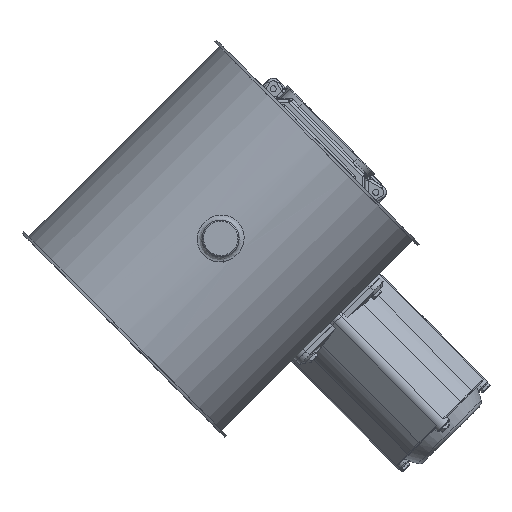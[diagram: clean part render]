
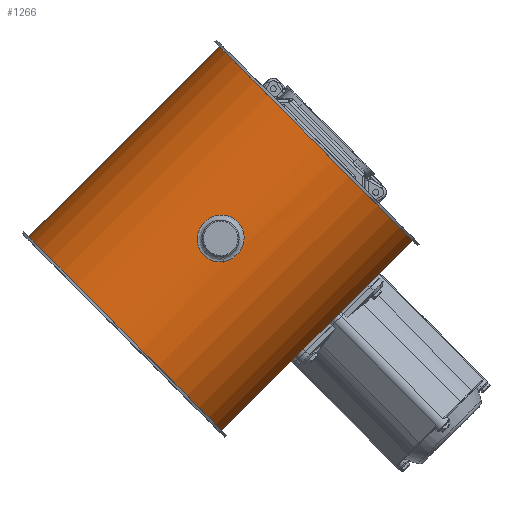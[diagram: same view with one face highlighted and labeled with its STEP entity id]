
A CAD part, top view. The second image highlights one B-rep face of the part: STEP entity #1266.
In plain terms, the highlighted cylindrical face has radius 111.5 mm (diameter 223 mm), a full revolution.
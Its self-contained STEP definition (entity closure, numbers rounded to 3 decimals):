
#833=CARTESIAN_POINT('',(-110.,18.228,103.769));
#834=VERTEX_POINT('',#833);
#835=CARTESIAN_POINT('',(-110.,18.228,120.231));
#836=VERTEX_POINT('',#835);
#837=CARTESIAN_POINT('',(-110.,18.228,103.769));
#838=DIRECTION('',(0.0,0.0,1.0));
#839=VECTOR('',#838,16.462);
#840=LINE('',#837,#839);
#841=EDGE_CURVE('',#834,#836,#840,.T.);
#858=CARTESIAN_POINT('',(-110.,-18.228,120.231));
#859=VERTEX_POINT('',#858);
#860=CARTESIAN_POINT('',(-110.,-18.228,103.769));
#861=VERTEX_POINT('',#860);
#862=CARTESIAN_POINT('',(-110.,-18.228,120.231));
#863=DIRECTION('',(0.0,0.0,-1.0));
#864=VECTOR('',#863,16.462);
#865=LINE('',#862,#864);
#866=EDGE_CURVE('',#859,#861,#865,.T.);
#883=CARTESIAN_POINT('',(-110.,-18.228,103.769));
#884=CARTESIAN_POINT('',(-110.077,-17.764,102.743));
#885=CARTESIAN_POINT('',(-110.165,-17.214,101.758));
#886=CARTESIAN_POINT('',(-110.369,-15.861,99.746));
#887=CARTESIAN_POINT('',(-110.486,-15.028,98.744));
#888=CARTESIAN_POINT('',(-110.713,-13.256,96.972));
#889=CARTESIAN_POINT('',(-110.83,-12.254,96.139));
#890=CARTESIAN_POINT('',(-111.049,-10.073,94.672));
#891=CARTESIAN_POINT('',(-111.152,-8.893,94.036));
#892=CARTESIAN_POINT('',(-111.321,-6.43,93.015));
#893=CARTESIAN_POINT('',(-111.389,-5.145,92.628));
#894=CARTESIAN_POINT('',(-111.478,-2.559,92.121));
#895=CARTESIAN_POINT('',(-111.5,-1.259,92.0));
#896=CARTESIAN_POINT('',(-111.5,1.259,92.));
#897=CARTESIAN_POINT('',(-111.478,2.559,92.121));
#898=CARTESIAN_POINT('',(-111.389,5.145,92.628));
#899=CARTESIAN_POINT('',(-111.321,6.43,93.015));
#900=CARTESIAN_POINT('',(-111.152,8.893,94.036));
#901=CARTESIAN_POINT('',(-111.049,10.073,94.672));
#902=CARTESIAN_POINT('',(-110.83,12.254,96.139));
#903=CARTESIAN_POINT('',(-110.713,13.256,96.972));
#904=CARTESIAN_POINT('',(-110.486,15.028,98.744));
#905=CARTESIAN_POINT('',(-110.369,15.861,99.746));
#906=CARTESIAN_POINT('',(-110.165,17.214,101.758));
#907=CARTESIAN_POINT('',(-110.077,17.764,102.743));
#908=CARTESIAN_POINT('',(-110.,18.228,103.769));
#909=B_SPLINE_CURVE_WITH_KNOTS('',3,(#883,#884,#885,#886,#887,#888,#889,#890,#891,#892,#893,#894,#895,#896,#897,#898,#899,#900,#901,#902,#903,#904,#905,#906,#907,#908),.UNSPECIFIED.,.F.,.U.,(4,2,2,2,2,2,2,2,2,2,2,2,4),(6.855,7.174,7.551,7.929,8.306,8.684,9.062,9.439,9.817,10.194,10.572,10.949,11.268),.UNSPECIFIED.);
#910=EDGE_CURVE('',#861,#834,#909,.T.);
#913=CARTESIAN_POINT('',(-110.,18.228,120.231));
#914=CARTESIAN_POINT('',(-110.077,17.764,121.257));
#915=CARTESIAN_POINT('',(-110.165,17.214,122.242));
#916=CARTESIAN_POINT('',(-110.369,15.861,124.254));
#917=CARTESIAN_POINT('',(-110.486,15.028,125.256));
#918=CARTESIAN_POINT('',(-110.713,13.256,127.028));
#919=CARTESIAN_POINT('',(-110.83,12.254,127.861));
#920=CARTESIAN_POINT('',(-111.049,10.073,129.328));
#921=CARTESIAN_POINT('',(-111.152,8.893,129.964));
#922=CARTESIAN_POINT('',(-111.321,6.43,130.985));
#923=CARTESIAN_POINT('',(-111.389,5.145,131.372));
#924=CARTESIAN_POINT('',(-111.478,2.559,131.879));
#925=CARTESIAN_POINT('',(-111.5,1.259,132.0));
#926=CARTESIAN_POINT('',(-111.5,-1.259,132.));
#927=CARTESIAN_POINT('',(-111.478,-2.559,131.879));
#928=CARTESIAN_POINT('',(-111.389,-5.145,131.372));
#929=CARTESIAN_POINT('',(-111.321,-6.43,130.985));
#930=CARTESIAN_POINT('',(-111.152,-8.893,129.964));
#931=CARTESIAN_POINT('',(-111.049,-10.073,129.328));
#932=CARTESIAN_POINT('',(-110.83,-12.254,127.861));
#933=CARTESIAN_POINT('',(-110.713,-13.256,127.028));
#934=CARTESIAN_POINT('',(-110.486,-15.028,125.256));
#935=CARTESIAN_POINT('',(-110.369,-15.861,124.254));
#936=CARTESIAN_POINT('',(-110.165,-17.214,122.242));
#937=CARTESIAN_POINT('',(-110.077,-17.764,121.257));
#938=CARTESIAN_POINT('',(-110.,-18.228,120.231));
#939=B_SPLINE_CURVE_WITH_KNOTS('',3,(#913,#914,#915,#916,#917,#918,#919,#920,#921,#922,#923,#924,#925,#926,#927,#928,#929,#930,#931,#932,#933,#934,#935,#936,#937,#938),.UNSPECIFIED.,.F.,.U.,(4,2,2,2,2,2,2,2,2,2,2,2,4),(0.814,1.133,1.51,1.888,2.265,2.643,3.021,3.398,3.776,4.153,4.531,4.908,5.227),.UNSPECIFIED.);
#940=EDGE_CURVE('',#836,#859,#939,.T.);
#1182=CARTESIAN_POINT('',(109.913,18.744,112.));
#1183=VERTEX_POINT('',#1182);
#1193=CARTESIAN_POINT('',(109.913,18.744,112.));
#1194=CARTESIAN_POINT('',(109.913,18.744,112.));
#1195=CARTESIAN_POINT('',(109.913,18.744,112.));
#1196=CARTESIAN_POINT('',(109.913,18.744,112.));
#1197=CARTESIAN_POINT('',(109.913,18.743,113.089));
#1198=CARTESIAN_POINT('',(109.944,18.567,115.279));
#1199=CARTESIAN_POINT('',(110.06,17.866,118.102));
#1200=CARTESIAN_POINT('',(110.334,16.135,122.477));
#1201=CARTESIAN_POINT('',(110.684,13.674,125.698));
#1202=CARTESIAN_POINT('',(111.14,9.205,129.208));
#1203=CARTESIAN_POINT('',(111.474,4.642,131.347));
#1204=CARTESIAN_POINT('',(111.526,-0.691,131.664));
#1205=CARTESIAN_POINT('',(111.371,-6.243,130.693));
#1206=CARTESIAN_POINT('',(110.917,-12.07,127.774));
#1207=CARTESIAN_POINT('',(110.054,-18.053,120.006));
#1208=CARTESIAN_POINT('',(109.829,-19.21,112.209));
#1209=CARTESIAN_POINT('',(109.999,-18.24,107.43));
#1210=CARTESIAN_POINT('',(110.083,-17.721,105.548));
#1211=CARTESIAN_POINT('',(110.26,-16.618,102.617));
#1212=CARTESIAN_POINT('',(110.551,-14.607,99.55));
#1213=CARTESIAN_POINT('',(110.866,-11.933,96.867));
#1214=CARTESIAN_POINT('',(111.133,-9.245,94.878));
#1215=CARTESIAN_POINT('',(111.325,-6.454,93.609));
#1216=CARTESIAN_POINT('',(111.525,-1.929,92.339));
#1217=CARTESIAN_POINT('',(111.524,2.148,92.337));
#1218=CARTESIAN_POINT('',(111.269,7.561,93.964));
#1219=CARTESIAN_POINT('',(110.848,12.528,96.815));
#1220=CARTESIAN_POINT('',(110.273,16.564,102.077));
#1221=CARTESIAN_POINT('',(109.969,18.423,107.606));
#1222=CARTESIAN_POINT('',(109.913,18.745,110.548));
#1223=CARTESIAN_POINT('',(109.913,18.744,112.));
#1224=B_SPLINE_CURVE_WITH_KNOTS('',3,(#1193,#1194,#1195,#1196,#1197,#1198,#1199,#1200,#1201,#1202,#1203,#1204,#1205,#1206,#1207,#1208,#1209,#1210,#1211,#1212,#1213,#1214,#1215,#1216,#1217,#1218,#1219,#1220,#1221,#1222,#1223),.UNSPECIFIED.,.T.,.U.,(4,3,1,1,1,1,1,1,1,1,1,1,1,1,1,1,1,1,1,1,1,1,1,1,1,1,4),(-9.052,-9.052,-8.81,-8.567,-8.406,-7.759,-7.678,-7.113,-6.628,-6.466,-5.819,-5.173,-4.311,-4.149,-4.095,-3.88,-3.448,-3.287,-3.017,-2.694,-2.586,-1.94,-1.778,-1.293,-0.647,-0.323,0.),.UNSPECIFIED.);
#1225=EDGE_CURVE('',#1183,#1183,#1224,.T.);
#1230=CARTESIAN_POINT('',(0.0,0.0,0.0));
#1231=DIRECTION('',(0.0,0.0,1.0));
#1232=DIRECTION('',(-1.0,0.0,0.0));
#1233=AXIS2_PLACEMENT_3D('',#1230,#1231,#1232);
#1234=CYLINDRICAL_SURFACE('',#1233,111.5);
#1235=CARTESIAN_POINT('',(111.5,0.,222.));
#1236=VERTEX_POINT('',#1235);
#1237=CARTESIAN_POINT('',(0.0,0.0,222.));
#1238=DIRECTION('',(0.0,0.0,-1.0));
#1239=DIRECTION('',(-1.0,0.0,0.0));
#1240=AXIS2_PLACEMENT_3D('',#1237,#1238,#1239);
#1241=CIRCLE('',#1240,111.5);
#1242=EDGE_CURVE('',#1236,#1236,#1241,.T.);
#1243=ORIENTED_EDGE('',*,*,#1242,.T.);
#1244=EDGE_LOOP('',(#1243));
#1245=FACE_OUTER_BOUND('',#1244,.T.);
#1246=ORIENTED_EDGE('',*,*,#940,.T.);
#1247=ORIENTED_EDGE('',*,*,#866,.T.);
#1248=ORIENTED_EDGE('',*,*,#910,.T.);
#1249=ORIENTED_EDGE('',*,*,#841,.T.);
#1250=EDGE_LOOP('',(#1246,#1247,#1248,#1249));
#1251=FACE_BOUND('',#1250,.T.);
#1252=CARTESIAN_POINT('',(-111.5,0.,2.0));
#1253=VERTEX_POINT('',#1252);
#1254=CARTESIAN_POINT('',(0.0,0.0,2.0));
#1255=DIRECTION('',(0.0,0.0,1.0));
#1256=DIRECTION('',(-1.0,0.0,0.0));
#1257=AXIS2_PLACEMENT_3D('',#1254,#1255,#1256);
#1258=CIRCLE('',#1257,111.5);
#1259=EDGE_CURVE('',#1253,#1253,#1258,.T.);
#1260=ORIENTED_EDGE('',*,*,#1259,.T.);
#1261=EDGE_LOOP('',(#1260));
#1262=FACE_BOUND('',#1261,.T.);
#1263=ORIENTED_EDGE('',*,*,#1225,.F.);
#1264=EDGE_LOOP('',(#1263));
#1265=FACE_BOUND('',#1264,.T.);
#1266=ADVANCED_FACE('',(#1245,#1251,#1262,#1265),#1234,.T.);
